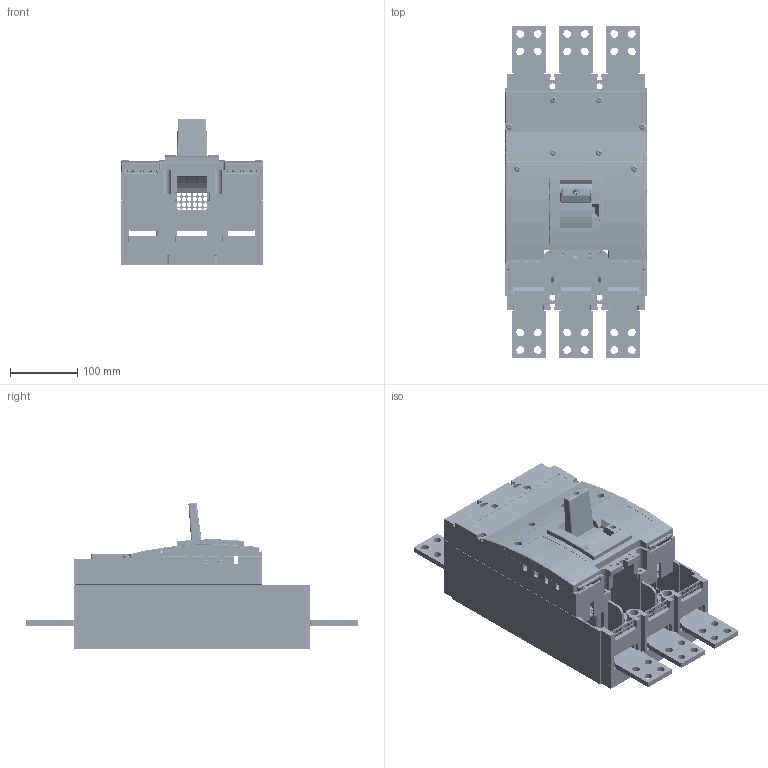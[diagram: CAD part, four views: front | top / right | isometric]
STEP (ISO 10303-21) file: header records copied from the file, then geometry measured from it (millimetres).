
FILE_DESCRIPTION (( 'STEP AP214' ), '1' );
FILE_NAME ('BL1000SE305.step', '2011-09-07T12:37:28', ( 'Radek Veselý' ), ( 'Siemens and Partners' ), 'SwSTEP 2.0', 'SolidWorks 2006303', '' );
FILE_SCHEMA (( 'AUTOMOTIVE_DESIGN' ));
Length unit declared in the file: millimetre
Products named in the file (1): BL1000SE305
Bounding box: 210 x 494 x 218.52 mm (x, y, z)
Volume: 3324974.2 mm3; surface area: 1220061.7 mm2
Topology: 34 solids, 34 shells, 5224 faces, 14317 edges, 9131 vertices
Faces by surface type: plane 2770, cylinder 1883, cone 208, sphere 154, torus 119, bspline 90
Entity records: 232089 total; most frequent: CARTESIAN_POINT 40124, ORIENTED_EDGE 28368, DIRECTION 27848, EDGE_CURVE 14184, AXIS2_PLACEMENT_3D 9384, VERTEX_POINT 9121, VECTOR 9080, LINE 9080
